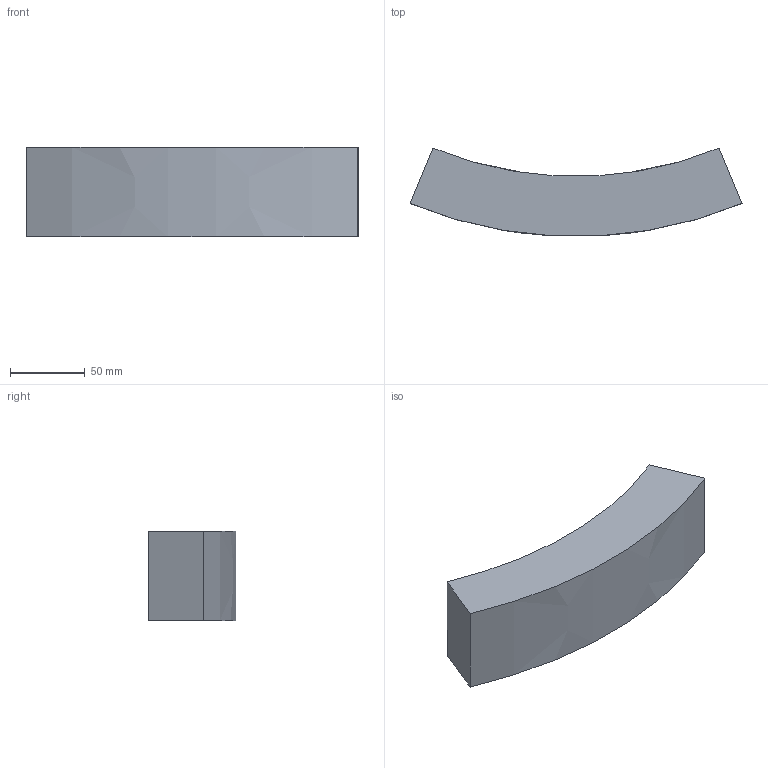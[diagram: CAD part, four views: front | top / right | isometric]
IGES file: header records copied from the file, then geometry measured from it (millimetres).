
Start section:  PTC IGES file: d160-1600_fixbloc_d250_pk-01.igs
Global section: file name: d160-1600_fixbloc_d250_pk-01.igs; native system: Creo Parametric by PTC Inc.; preprocessor: 2019030; author: demmerls; organization: Unknown; date: 20200925.142409; units: millimetre
Bounding box: 221.52 x 58.5 x 60 mm (x, y, z)
Surface area: 47123 mm2 (no closed solid volume)
Topology: 0 solids, 0 shells, 6 faces, 24 edges, 24 vertices
Faces by surface type: bspline 6
